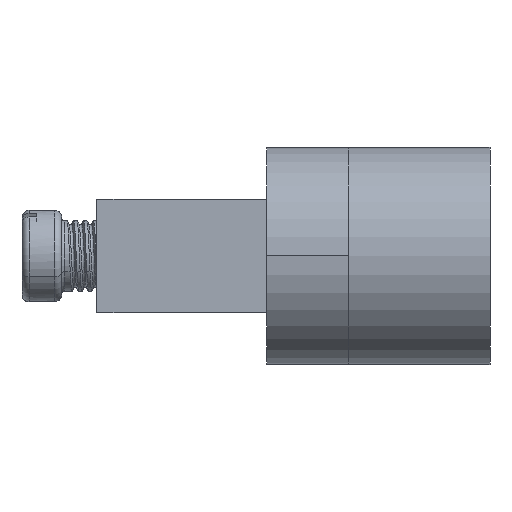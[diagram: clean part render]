
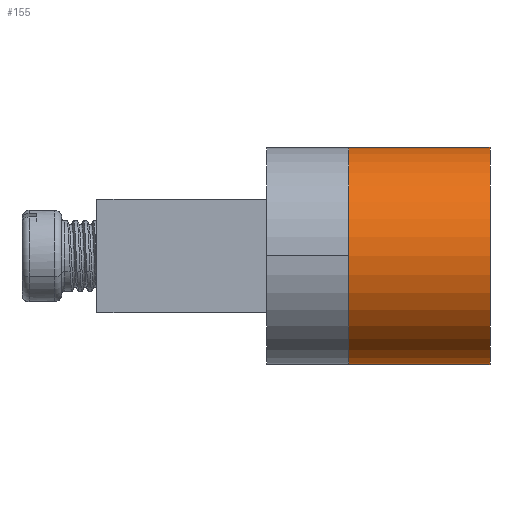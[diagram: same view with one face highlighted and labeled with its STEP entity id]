
A CAD part, left-side view. The second image highlights one B-rep face of the part: STEP entity #155.
In plain terms, the highlighted cylindrical face has radius 7.7 mm (diameter 15.4 mm), a partial arc.
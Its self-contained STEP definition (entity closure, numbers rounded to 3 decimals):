
#40 = CARTESIAN_POINT ( 'NONE',  ( 14., 7.7, 10. ) ) ;
#155 = ADVANCED_FACE ( 'NONE', ( #4752 ), #1634, .T. ) ;
#563 = DIRECTION ( 'NONE',  ( -1., 0., 0. ) ) ;
#694 = EDGE_LOOP ( 'NONE', ( #7369, #5980, #12482, #8734 ) ) ;
#1634 = CYLINDRICAL_SURFACE ( 'NONE', #12425, 7.7 ) ;
#2574 = VERTEX_POINT ( 'NONE', #40 ) ;
#2909 = CIRCLE ( 'NONE', #14150, 7.7 ) ;
#3095 = VECTOR ( 'NONE', #12452, 1000. ) ;
#3167 = CARTESIAN_POINT ( 'NONE',  ( 14., 7.7, 10. ) ) ;
#4035 = CARTESIAN_POINT ( 'NONE',  ( 14., 0., 10. ) ) ;
#4477 = CARTESIAN_POINT ( 'NONE',  ( 14., 0., 0. ) ) ;
#4728 = EDGE_CURVE ( 'NONE', #7130, #7178, #9464, .T. ) ;
#4752 = FACE_OUTER_BOUND ( 'NONE', #694, .T. ) ;
#4985 = CARTESIAN_POINT ( 'NONE',  ( 14., -7.7, 10. ) ) ;
#5343 = EDGE_CURVE ( 'NONE', #5801, #7130, #14546, .T. ) ;
#5641 = DIRECTION ( 'NONE',  ( 1., 0., 0. ) ) ;
#5801 = VERTEX_POINT ( 'NONE', #4985 ) ;
#5873 = EDGE_CURVE ( 'NONE', #5801, #2574, #2909, .T. ) ;
#5980 = ORIENTED_EDGE ( 'NONE', *, *, #6058, .F. ) ;
#6058 = EDGE_CURVE ( 'NONE', #2574, #7178, #6163, .T. ) ;
#6151 = DIRECTION ( 'NONE',  ( 0., 0., -1. ) ) ;
#6163 = LINE ( 'NONE', #3167, #3095 ) ;
#6293 = CARTESIAN_POINT ( 'NONE',  ( 14., 0., 10. ) ) ;
#6730 = CARTESIAN_POINT ( 'NONE',  ( 14., -7.7, 10. ) ) ;
#7050 = CARTESIAN_POINT ( 'NONE',  ( 14., 7.7, 0. ) ) ;
#7130 = VERTEX_POINT ( 'NONE', #11595 ) ;
#7178 = VERTEX_POINT ( 'NONE', #7050 ) ;
#7369 = ORIENTED_EDGE ( 'NONE', *, *, #4728, .T. ) ;
#7459 = DIRECTION ( 'NONE',  ( 1., 0., 0. ) ) ;
#8734 = ORIENTED_EDGE ( 'NONE', *, *, #5343, .T. ) ;
#9130 = DIRECTION ( 'NONE',  ( 0., 0., -1. ) ) ;
#9464 = CIRCLE ( 'NONE', #9564, 7.7 ) ;
#9564 = AXIS2_PLACEMENT_3D ( 'NONE', #4477, #12607, #5641 ) ;
#11485 = VECTOR ( 'NONE', #9130, 1000. ) ;
#11595 = CARTESIAN_POINT ( 'NONE',  ( 14., -7.7, 0. ) ) ;
#12425 = AXIS2_PLACEMENT_3D ( 'NONE', #4035, #6151, #563 ) ;
#12452 = DIRECTION ( 'NONE',  ( 0., 0., -1. ) ) ;
#12482 = ORIENTED_EDGE ( 'NONE', *, *, #5873, .F. ) ;
#12607 = DIRECTION ( 'NONE',  ( 0., 0., 1. ) ) ;
#14150 = AXIS2_PLACEMENT_3D ( 'NONE', #6293, #14425, #7459 ) ;
#14425 = DIRECTION ( 'NONE',  ( 0., 0., 1. ) ) ;
#14546 = LINE ( 'NONE', #6730, #11485 ) ;
